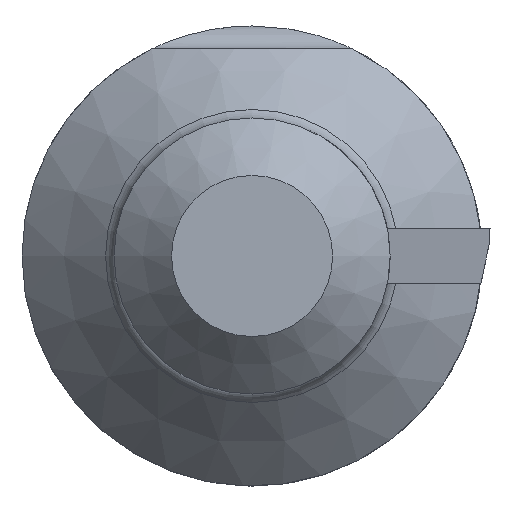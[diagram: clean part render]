
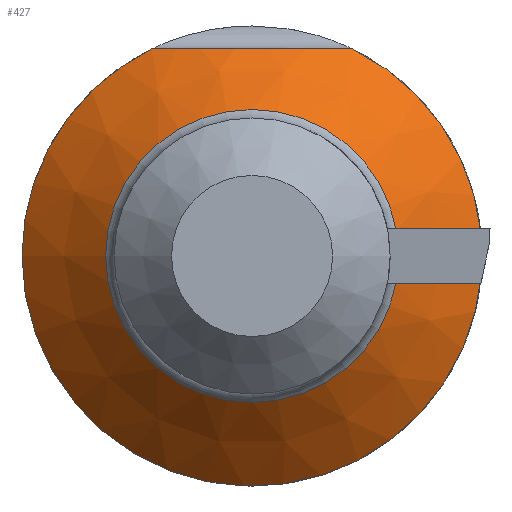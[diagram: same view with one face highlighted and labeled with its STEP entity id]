
A CAD part, left-side view. The second image highlights one B-rep face of the part: STEP entity #427.
In plain terms, the highlighted conical face has half-angle 45 degrees and reference radius 3.273 mm.
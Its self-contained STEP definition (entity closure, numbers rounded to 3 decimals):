
#16=CONICAL_SURFACE('',#483,3.273,0.785);
#19=(
BOUNDED_CURVE()
B_SPLINE_CURVE(2,(#753,#754,#755),.UNSPECIFIED.,.F.,.F.)
B_SPLINE_CURVE_WITH_KNOTS((3,3),(0.,0.358),.UNSPECIFIED.)
CURVE()
GEOMETRIC_REPRESENTATION_ITEM()
RATIONAL_B_SPLINE_CURVE((1.,1.111,1.))
REPRESENTATION_ITEM('')
);
#28=CIRCLE('',#480,4.);
#30=CIRCLE('',#482,4.);
#31=CIRCLE('',#484,2.546);
#32=CIRCLE('',#485,2.546);
#67=FACE_OUTER_BOUND('',#90,.T.);
#90=EDGE_LOOP('',(#338,#339,#340,#341,#342,#343,#344));
#126=LINE('',#769,#158);
#158=VECTOR('',#592,3.273);
#189=VERTEX_POINT('',#750);
#190=VERTEX_POINT('',#752);
#191=VERTEX_POINT('',#758);
#193=VERTEX_POINT('',#765);
#194=VERTEX_POINT('',#766);
#240=EDGE_CURVE('',#190,#189,#19,.T.);
#242=EDGE_CURVE('',#191,#190,#28,.T.);
#245=EDGE_CURVE('',#189,#191,#30,.T.);
#246=EDGE_CURVE('',#193,#194,#31,.T.);
#247=EDGE_CURVE('',#194,#193,#32,.T.);
#248=EDGE_CURVE('',#194,#191,#126,.T.);
#338=ORIENTED_EDGE('',*,*,#246,.F.);
#339=ORIENTED_EDGE('',*,*,#247,.F.);
#340=ORIENTED_EDGE('',*,*,#248,.T.);
#341=ORIENTED_EDGE('',*,*,#242,.T.);
#342=ORIENTED_EDGE('',*,*,#240,.T.);
#343=ORIENTED_EDGE('',*,*,#245,.T.);
#344=ORIENTED_EDGE('',*,*,#248,.F.);
#427=ADVANCED_FACE('',(#67),#16,.T.);
#480=AXIS2_PLACEMENT_3D('',#759,#579,#580);
#482=AXIS2_PLACEMENT_3D('',#763,#584,#585);
#483=AXIS2_PLACEMENT_3D('',#764,#586,#587);
#484=AXIS2_PLACEMENT_3D('',#767,#588,#589);
#485=AXIS2_PLACEMENT_3D('',#768,#590,#591);
#579=DIRECTION('center_axis',(-1.,0.,0.));
#580=DIRECTION('ref_axis',(0.,0.,1.));
#584=DIRECTION('center_axis',(-1.,0.,0.));
#585=DIRECTION('ref_axis',(0.,0.,1.));
#586=DIRECTION('center_axis',(1.,0.,0.));
#587=DIRECTION('ref_axis',(0.,-1.,0.));
#588=DIRECTION('center_axis',(-1.,0.,0.));
#589=DIRECTION('ref_axis',(0.,0.,1.));
#590=DIRECTION('center_axis',(-1.,0.,0.));
#591=DIRECTION('ref_axis',(0.,0.,1.));
#592=DIRECTION('',(0.707,0.707,0.));
#750=CARTESIAN_POINT('',(54.6,1.744,3.6));
#752=CARTESIAN_POINT('',(54.6,-1.744,3.6));
#753=CARTESIAN_POINT('Ctrl Pts',(54.6,-1.744,3.6));
#754=CARTESIAN_POINT('Ctrl Pts',(53.84,0.,3.6));
#755=CARTESIAN_POINT('Ctrl Pts',(54.6,1.744,3.6));
#758=CARTESIAN_POINT('',(54.6,4.,0.));
#759=CARTESIAN_POINT('Origin',(54.6,0.,0.));
#763=CARTESIAN_POINT('Origin',(54.6,0.,0.));
#764=CARTESIAN_POINT('Origin',(53.873,0.,0.));
#765=CARTESIAN_POINT('',(53.146,0.,-2.546));
#766=CARTESIAN_POINT('',(53.146,2.546,0.));
#767=CARTESIAN_POINT('Origin',(53.146,0.,0.));
#768=CARTESIAN_POINT('Origin',(53.146,0.,0.));
#769=CARTESIAN_POINT('',(53.873,3.273,0.));
